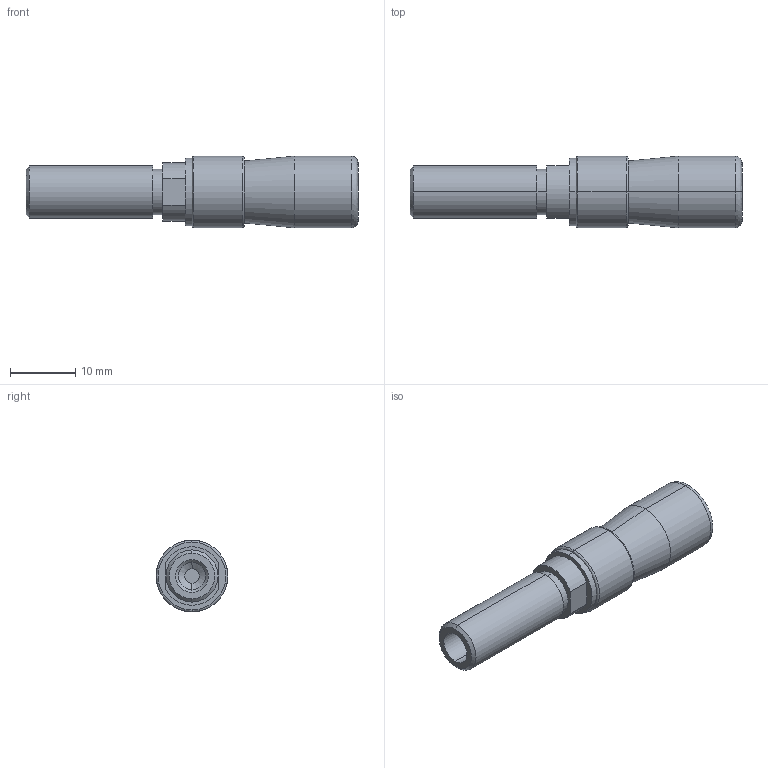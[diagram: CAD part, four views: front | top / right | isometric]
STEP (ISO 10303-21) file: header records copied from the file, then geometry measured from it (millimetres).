
FILE_DESCRIPTION( (''), '2;1');
FILE_NAME ('TGMX25.1684.RBP009RCA_22825.stp','2015-03-30T15:10:32',(''),(''),'spGate 11.3.7','spGate','');
FILE_SCHEMA (('AUTOMOTIVE_DESIGN'));
Length unit declared in the file: millimetre
Bounding box: 51 x 11.01 x 11.01 mm (x, y, z)
Volume: 3390 mm3; surface area: 2043.5 mm2
Topology: 1 solids, 1 shells, 45 faces, 91 edges, 54 vertices
Faces by surface type: cylinder 20, bspline 15, plane 10
Entity records: 2142 total; most frequent: CARTESIAN_POINT 484, ORIENTED_EDGE 182, DIRECTION 168, COLOUR_RGB 137, PRESENTATION_STYLE_ASSIGNMENT 137, STYLED_ITEM 137, EDGE_CURVE 91, DRAUGHTING_PRE_DEFINED_CURVE_FONT 91
